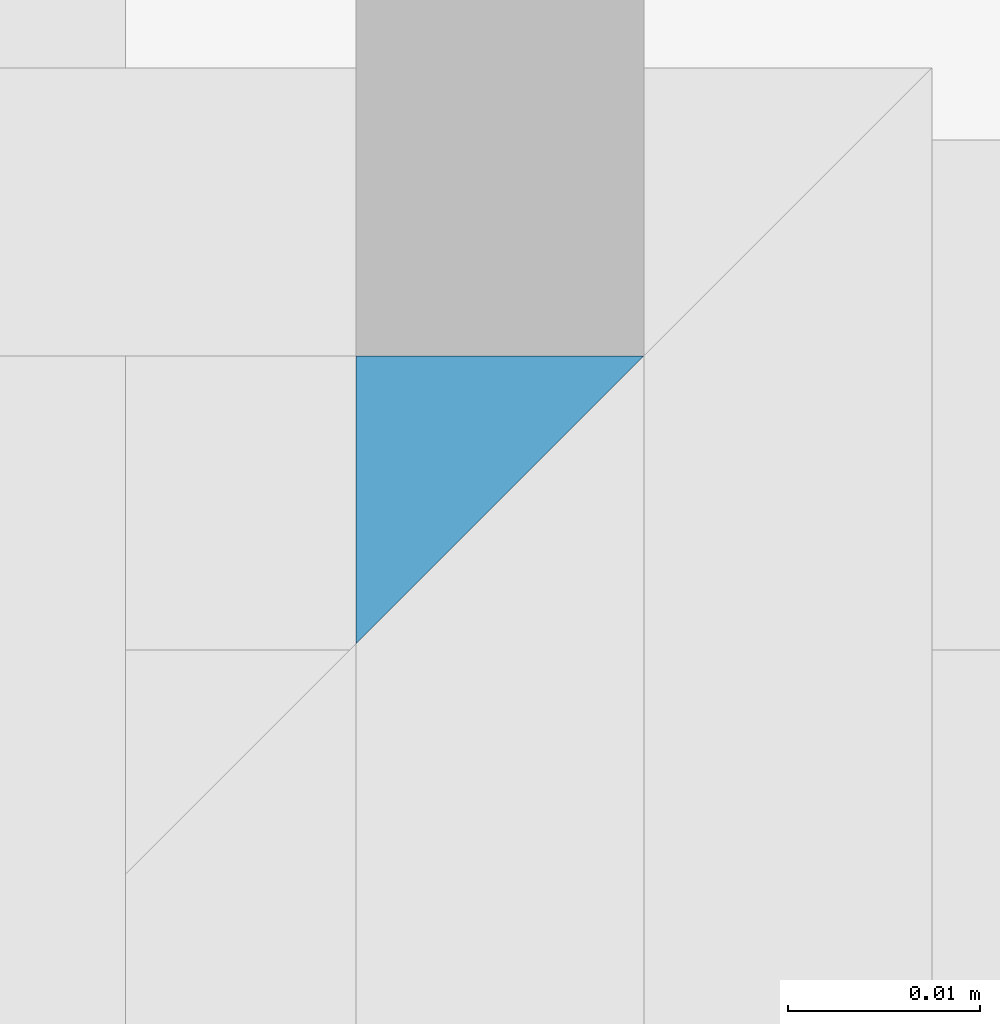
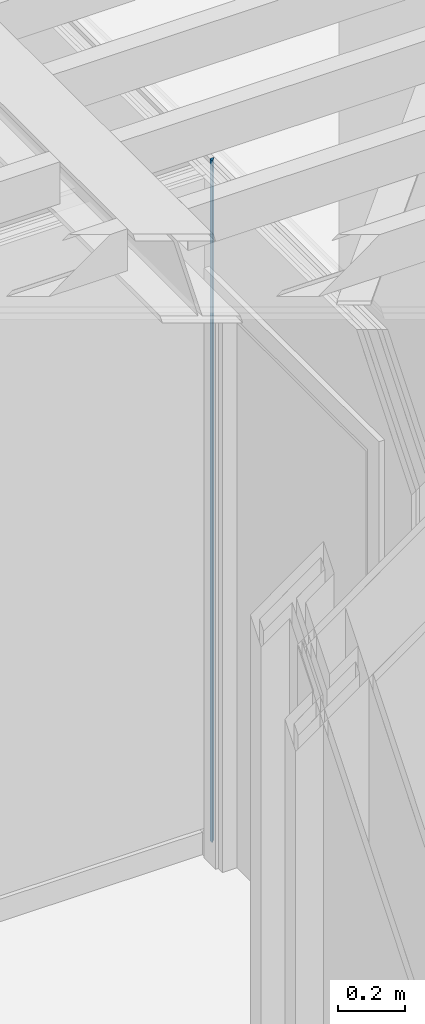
# One storey, part 45 of 183: 1 building element part, 1 element without a shape of its own.
"""IFC2X3 building model written with IfcOpenShell, lengths in metres."""

from ifc_helpers import new_model, entity, si_unit, converted_unit, derived_unit, money_unit, direction, frame, origin_with_axes, place, context, subcontext, project, spatial, polyline, outline, extrude, material, type_object, element, aggregate, save


model = new_model("IFC2X3")

# Units and contexts
model_context = context("Model", 3, precision=1e-05, world=origin_with_axes(), true_north=direction((0.0, 1.0)))
body_context = subcontext(model_context, "Body", "Model", "MODEL_VIEW", scale=1.0)
ifc_project = project(units=[si_unit("LENGTHUNIT", "METRE"), si_unit("AREAUNIT", "SQUARE_METRE"), si_unit("VOLUMEUNIT", "CUBIC_METRE"), si_unit("ABSORBEDDOSEUNIT", "GRAY"), si_unit("AMOUNTOFSUBSTANCEUNIT", "MOLE"), si_unit("DOSEEQUIVALENTUNIT", "SIEVERT"), si_unit("ELECTRICCAPACITANCEUNIT", "FARAD"), si_unit("ELECTRICCHARGEUNIT", "COULOMB"), si_unit("ELECTRICCONDUCTANCEUNIT", "SIEMENS"), si_unit("ELECTRICCURRENTUNIT", "AMPERE"), si_unit("ELECTRICRESISTANCEUNIT", "OHM"), si_unit("ELECTRICVOLTAGEUNIT", "VOLT"), si_unit("ENERGYUNIT", "JOULE"), si_unit("FORCEUNIT", "NEWTON"), si_unit("FREQUENCYUNIT", "HERTZ"), si_unit("ILLUMINANCEUNIT", "LUX"), si_unit("INDUCTANCEUNIT", "HENRY"), si_unit("LUMINOUSFLUXUNIT", "LUMEN"), si_unit("LUMINOUSINTENSITYUNIT", "CANDELA"), si_unit("MAGNETICFLUXDENSITYUNIT", "TESLA"), si_unit("MAGNETICFLUXUNIT", "WEBER"), si_unit("MASSUNIT", "GRAM"), converted_unit("PLANEANGLEUNIT", "degree", entity("IfcReal", 0.0174532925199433), si_unit("PLANEANGLEUNIT", "RADIAN"), dimensions=[0, 0, 0, 0, 0, 0, 0]), si_unit("POWERUNIT", "WATT"), si_unit("PRESSUREUNIT", "PASCAL"), si_unit("RADIOACTIVITYUNIT", "BECQUEREL"), si_unit("SOLIDANGLEUNIT", "STERADIAN"), si_unit("THERMODYNAMICTEMPERATUREUNIT", "KELVIN"), si_unit("TIMEUNIT", "SECOND"), derived_unit("ACCELERATIONUNIT", [(si_unit("LENGTHUNIT", "METRE"), 1), (si_unit("TIMEUNIT", "SECOND"), -2)]), derived_unit("ANGULARVELOCITYUNIT", [(converted_unit("PLANEANGLEUNIT", "degree", entity("IfcReal", 0.0174532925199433), si_unit("PLANEANGLEUNIT", "RADIAN"), dimensions=[0, 0, 0, 0, 0, 0, 0]), 1), (si_unit("TIMEUNIT", "SECOND"), -1)]), derived_unit("CURVATUREUNIT", [(converted_unit("PLANEANGLEUNIT", "degree", entity("IfcReal", 0.0174532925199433), si_unit("PLANEANGLEUNIT", "RADIAN"), dimensions=[0, 0, 0, 0, 0, 0, 0]), 1), (si_unit("LENGTHUNIT", "METRE"), -1)]), derived_unit("DYNAMICVISCOSITYUNIT", [(si_unit("PRESSUREUNIT", "PASCAL"), 1), (si_unit("TIMEUNIT", "SECOND"), 1)]), derived_unit("HEATFLUXDENSITYUNIT", [(si_unit("POWERUNIT", "WATT"), 1), (si_unit("LENGTHUNIT", "METRE"), -2)]), derived_unit("HEATINGVALUEUNIT", [(si_unit("ENERGYUNIT", "JOULE"), 1), (si_unit("MASSUNIT", "GRAM"), -1)]), derived_unit("INTEGERCOUNTRATEUNIT", [(si_unit("TIMEUNIT", "SECOND"), -1)]), derived_unit("IONCONCENTRATIONUNIT", [(si_unit("MASSUNIT", "GRAM"), 1), (si_unit("VOLUMEUNIT", "CUBIC_METRE"), -1)]), derived_unit("ISOTHERMALMOISTURECAPACITYUNIT", [(si_unit("VOLUMEUNIT", "CUBIC_METRE"), 1), (si_unit("MASSUNIT", "GRAM"), -1)]), derived_unit("KINEMATICVISCOSITYUNIT", [(si_unit("AREAUNIT", "SQUARE_METRE"), 1), (si_unit("TIMEUNIT", "SECOND"), -1)]), derived_unit("LINEARFORCEUNIT", [(si_unit("FORCEUNIT", "NEWTON"), 1), (si_unit("LENGTHUNIT", "METRE"), -1)]), derived_unit("LINEARMOMENTUNIT", [(si_unit("FORCEUNIT", "NEWTON"), 1), (si_unit("LENGTHUNIT", "METRE"), -1)]), derived_unit("LINEARSTIFFNESSUNIT", [(si_unit("FORCEUNIT", "NEWTON"), 1), (si_unit("LENGTHUNIT", "METRE"), -1)]), derived_unit("LINEARVELOCITYUNIT", [(si_unit("LENGTHUNIT", "METRE"), 1), (si_unit("TIMEUNIT", "SECOND"), -1)]), derived_unit("LUMINOUSINTENSITYDISTRIBUTIONUNIT", [(si_unit("LUMINOUSINTENSITYUNIT", "CANDELA"), 1), (si_unit("LUMINOUSFLUXUNIT", "LUMEN"), -1)]), derived_unit("MASSDENSITYUNIT", [(si_unit("MASSUNIT", "GRAM"), 1), (si_unit("VOLUMEUNIT", "CUBIC_METRE"), -1)]), derived_unit("MASSFLOWRATEUNIT", [(si_unit("MASSUNIT", "GRAM"), 1), (si_unit("TIMEUNIT", "SECOND"), -1)]), derived_unit("MASSPERLENGTHUNIT", [(si_unit("MASSUNIT", "GRAM"), 1), (si_unit("LENGTHUNIT", "METRE"), -1)]), derived_unit("MODULUSOFELASTICITYUNIT", [(si_unit("FORCEUNIT", "NEWTON"), 1), (si_unit("AREAUNIT", "SQUARE_METRE"), -1)]), derived_unit("MODULUSOFLINEARSUBGRADEREACTIONUNIT", [(si_unit("FORCEUNIT", "NEWTON"), 1), (si_unit("LENGTHUNIT", "METRE"), -2)]), derived_unit("MODULUSOFROTATIONALSUBGRADEREACTIONUNIT", [(si_unit("FORCEUNIT", "NEWTON"), 1), (si_unit("LENGTHUNIT", "METRE"), 1)]), derived_unit("MODULUSOFSUBGRADEREACTIONUNIT", [(si_unit("FORCEUNIT", "NEWTON"), 1), (si_unit("VOLUMEUNIT", "CUBIC_METRE"), -1)]), derived_unit("MOISTUREDIFFUSIVITYUNIT", [(si_unit("VOLUMEUNIT", "CUBIC_METRE"), 1), (si_unit("TIMEUNIT", "SECOND"), -1)]), derived_unit("MOLECULARWEIGHTUNIT", [(si_unit("MASSUNIT", "GRAM"), 1), (si_unit("AMOUNTOFSUBSTANCEUNIT", "MOLE"), -1)]), derived_unit("PLANARFORCEUNIT", [(si_unit("FORCEUNIT", "NEWTON"), 1), (si_unit("LENGTHUNIT", "METRE"), -2)]), derived_unit("ROTATIONALFREQUENCYUNIT", [(si_unit("TIMEUNIT", "SECOND"), -1)]), derived_unit("ROTATIONALMASSUNIT", [(si_unit("MASSUNIT", "GRAM"), 1), (si_unit("LENGTHUNIT", "METRE"), 2)]), derived_unit("ROTATIONALSTIFFNESSUNIT", [(si_unit("FORCEUNIT", "NEWTON"), 1), (si_unit("LENGTHUNIT", "METRE"), 1), (converted_unit("PLANEANGLEUNIT", "degree", entity("IfcReal", 0.0174532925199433), si_unit("PLANEANGLEUNIT", "RADIAN"), dimensions=[0, 0, 0, 0, 0, 0, 0]), -1)]), derived_unit("SECTIONAREAINTEGRALUNIT", [(si_unit("LENGTHUNIT", "METRE"), 5)]), derived_unit("SECTIONMODULUSUNIT", [(si_unit("LENGTHUNIT", "METRE"), 3)]), derived_unit("SHEARMODULUSUNIT", [(si_unit("FORCEUNIT", "NEWTON"), 1), (si_unit("AREAUNIT", "SQUARE_METRE"), -1)]), derived_unit("SOUNDPOWERUNIT", [(si_unit("ENERGYUNIT", "JOULE"), 1), (si_unit("TIMEUNIT", "SECOND"), -1)]), derived_unit("SPECIFICHEATCAPACITYUNIT", [(si_unit("FORCEUNIT", "NEWTON"), 1), (si_unit("MASSUNIT", "GRAM"), -1), (si_unit("THERMODYNAMICTEMPERATUREUNIT", "KELVIN"), -1)]), derived_unit("TEMPERATUREGRADIENTUNIT", [(si_unit("THERMODYNAMICTEMPERATUREUNIT", "KELVIN"), 1), (si_unit("LENGTHUNIT", "METRE"), -1)]), derived_unit("THERMALADMITTANCEUNIT", [(si_unit("POWERUNIT", "WATT"), 1), (si_unit("AREAUNIT", "SQUARE_METRE"), -1), (si_unit("THERMODYNAMICTEMPERATUREUNIT", "KELVIN"), -1)]), derived_unit("THERMALCONDUCTANCEUNIT", [(si_unit("POWERUNIT", "WATT"), 1), (si_unit("LENGTHUNIT", "METRE"), -1), (si_unit("THERMODYNAMICTEMPERATUREUNIT", "KELVIN"), -1)]), derived_unit("THERMALEXPANSIONCOEFFICIENTUNIT", [(si_unit("THERMODYNAMICTEMPERATUREUNIT", "KELVIN"), -1)]), derived_unit("THERMALRESISTANCEUNIT", [(si_unit("AREAUNIT", "SQUARE_METRE"), 1), (si_unit("POWERUNIT", "WATT"), -1)]), derived_unit("THERMALTRANSMITTANCEUNIT", [(si_unit("POWERUNIT", "WATT"), 1), (si_unit("AREAUNIT", "SQUARE_METRE"), -1), (si_unit("THERMODYNAMICTEMPERATUREUNIT", "KELVIN"), -1)]), derived_unit("TORQUEUNIT", [(si_unit("FORCEUNIT", "NEWTON"), 1), (si_unit("LENGTHUNIT", "METRE"), 1)]), derived_unit("VAPORPERMEABILITYUNIT", [(si_unit("MASSUNIT", "GRAM"), 1), (si_unit("TIMEUNIT", "SECOND"), -1)]), derived_unit("VOLUMETRICFLOWRATEUNIT", [(si_unit("VOLUMEUNIT", "CUBIC_METRE"), 1), (si_unit("TIMEUNIT", "SECOND"), -1)]), derived_unit("WARPINGCONSTANTUNIT", [(si_unit("LENGTHUNIT", "METRE"), 6)]), derived_unit("WARPINGMOMENTUNIT", [(si_unit("FORCEUNIT", "NEWTON"), 1), (si_unit("LENGTHUNIT", "METRE"), 2)]), money_unit("GBP")], contexts=[model_context])

# Site, building, storey
site_placement = place(None, origin_with_axes())
site = spatial("IfcSite", under=ifc_project, at=site_placement, Name="Site", CompositionType="ELEMENT")
building_placement = place(site_placement, origin_with_axes())
building = spatial("IfcBuilding", under=site, at=building_placement, Name="Building01", CompositionType="ELEMENT")
storey_placement = place(building_placement, frame((0.0, 0.0, 5.15), z_axis=(0.0, 0.0, 1.0), x_axis=(1.0, 0.0, 0.0)))
storey = spatial("IfcBuildingStorey", under=building, at=storey_placement, Name="1F", CompositionType="ELEMENT", Elevation=5.15)

# Wall, building element part
wall_type = type_object("IfcWallType", Name="SHE_A-Walls_Type05b_Partition_80mm", PredefinedType="NOTDEFINED")
wall_placement = place(storey_placement, frame((2.872, 10.126939, 9.78), z_axis=(0.0, 0.0, 1.0), x_axis=(1.0, 0.0, 0.0)))
wall = element("IfcWall", 1, at=wall_placement, inside=storey, type_object=wall_type, Name="5B", ObjectType="SHE_A-Walls_Type05b_Partition_80mm")
ifc_material = material(Name="A_BSUK_WallInternal_Finishes_Plasterboard")
building_element_part_placement = place(wall_placement, origin_with_axes())
building_element_part = element("IfcBuildingElementPart", 2, at=building_element_part_placement, material=ifc_material, Name="11", context=body_context, shape_type="SweptSolid", body=[
    extrude(outline(polyline([(6.688024, 0.053), (6.673024, 0.053), (6.673024, 0.038), (6.688024, 0.053)])), origin_with_axes(), (0.0, 0.0, 1.0), 2.468),
])
aggregate(wall, [building_element_part])

save(model, "model.ifc")
